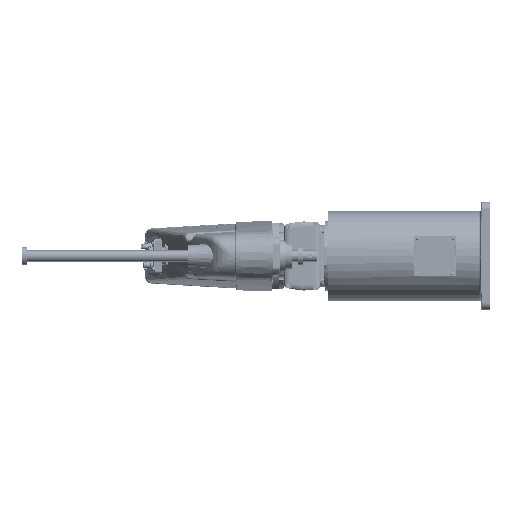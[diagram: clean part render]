
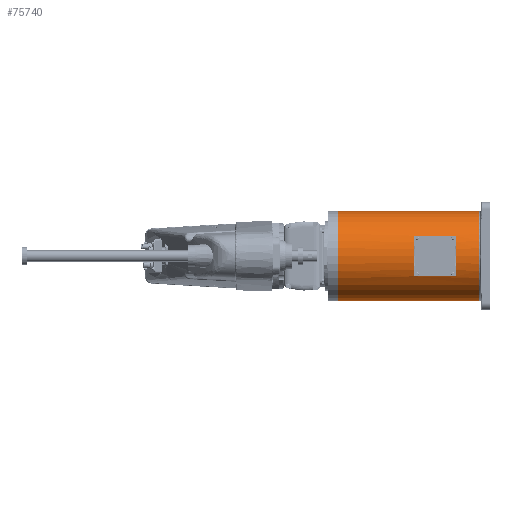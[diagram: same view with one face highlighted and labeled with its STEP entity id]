
A CAD part, left-side view. The second image highlights one B-rep face of the part: STEP entity #75740.
In plain terms, the highlighted cylindrical face has radius 100 mm (diameter 200 mm), a partial arc.
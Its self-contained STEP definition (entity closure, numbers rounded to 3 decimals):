
#4664 = EDGE_CURVE ( 'NONE', #220533, #221621, #193786, .T. ) ;
#4794 = EDGE_CURVE ( 'NONE', #221434, #220404, #193957, .T. ) ;
#4808 = EDGE_CURVE ( 'NONE', #221621, #221434, #193975, .T. ) ;
#4844 = EDGE_CURVE ( 'NONE', #70728, #70568, #194050, .T. ) ;
#5009 = EDGE_CURVE ( 'NONE', #70589, #70693, #194409, .T. ) ;
#5409 = EDGE_CURVE ( 'NONE', #220533, #220404, #196245, .T. ) ;
#5480 = AXIS2_PLACEMENT_3D ( 'NONE', #108904, #108908, #108911 ) ;
#5503 = AXIS2_PLACEMENT_3D ( 'NONE', #110199, #110202, #110206 ) ;
#5512 = AXIS2_PLACEMENT_3D ( 'NONE', #86736, #86740, #86744 ) ;
#5535 = AXIS2_PLACEMENT_3D ( 'NONE', #87304, #87306, #87308 ) ;
#16268 = CARTESIAN_POINT ( 'NONE',  ( 0., -153.2, 100. ) ) ;
#16282 = CARTESIAN_POINT ( 'NONE',  ( 0., 161.8, 100. ) ) ;
#16352 = CARTESIAN_POINT ( 'NONE',  ( 0., 161.8, -100. ) ) ;
#16376 = CARTESIAN_POINT ( 'NONE',  ( 0., -153.2, -100. ) ) ;
#20817 = CARTESIAN_POINT ( 'NONE',  ( -89., -8.5, -45.596 ) ) ;
#21526 = CARTESIAN_POINT ( 'NONE',  ( 0., 177.8, -100. ) ) ;
#21527 = DIRECTION ( 'NONE',  ( 0., -1., 0. ) ) ;
#21862 = CARTESIAN_POINT ( 'NONE',  ( 0., 177.8, 100. ) ) ;
#21864 = DIRECTION ( 'NONE',  ( 0., -1., 0. ) ) ;
#43657 = CARTESIAN_POINT ( 'NONE',  ( -89., 0., 45.596 ) ) ;
#43660 = DIRECTION ( 'NONE',  ( 0., 1., 0. ) ) ;
#70568 = VERTEX_POINT ( 'NONE', #16268 ) ;
#70589 = VERTEX_POINT ( 'NONE', #16282 ) ;
#70693 = VERTEX_POINT ( 'NONE', #16352 ) ;
#70728 = VERTEX_POINT ( 'NONE', #16376 ) ;
#74260 = EDGE_CURVE ( 'NONE', #70693, #70728, #138830, .T. ) ;
#74346 = EDGE_CURVE ( 'NONE', #70589, #70568, #138935, .T. ) ;
#75740 = ADVANCED_FACE ( 'NONE', ( #214436, #214438 ), #214439, .T. ) ;
#86736 = CARTESIAN_POINT ( 'NONE',  ( 0., -153.2, 0. ) ) ;
#86740 = DIRECTION ( 'NONE',  ( 0., 1., 0. ) ) ;
#86744 = DIRECTION ( 'NONE',  ( 0., 0., -1. ) ) ;
#87304 = CARTESIAN_POINT ( 'NONE',  ( 0., 161.8, 0. ) ) ;
#87306 = DIRECTION ( 'NONE',  ( 0., -1., 0. ) ) ;
#87308 = DIRECTION ( 'NONE',  ( 0., 0., -1. ) ) ;
#108904 = CARTESIAN_POINT ( 'NONE',  ( 0., -101.5, 0. ) ) ;
#108908 = DIRECTION ( 'NONE',  ( 0., -1., 0. ) ) ;
#108911 = DIRECTION ( 'NONE',  ( 0., 0., -1. ) ) ;
#110199 = CARTESIAN_POINT ( 'NONE',  ( 0., -8.5, 0. ) ) ;
#110202 = DIRECTION ( 'NONE',  ( 0., 1., 0. ) ) ;
#110206 = DIRECTION ( 'NONE',  ( 0., 0., -1. ) ) ;
#110344 = CARTESIAN_POINT ( 'NONE',  ( -89., 177.8, -45.596 ) ) ;
#110347 = DIRECTION ( 'NONE',  ( 0., 1., 0. ) ) ;
#138830 = LINE ( 'NONE', #21526, #138832 ) ;
#138832 = VECTOR ( 'NONE', #21527, 1000. ) ;
#138935 = LINE ( 'NONE', #21862, #138936 ) ;
#138936 = VECTOR ( 'NONE', #21864, 1000. ) ;
#187768 = ORIENTED_EDGE ( 'NONE', *, *, #74346, .F. ) ;
#187769 = ORIENTED_EDGE ( 'NONE', *, *, #5009, .T. ) ;
#187770 = ORIENTED_EDGE ( 'NONE', *, *, #74260, .T. ) ;
#187771 = ORIENTED_EDGE ( 'NONE', *, *, #4844, .T. ) ;
#187772 = ORIENTED_EDGE ( 'NONE', *, *, #5409, .F. ) ;
#187773 = ORIENTED_EDGE ( 'NONE', *, *, #4664, .T. ) ;
#187774 = ORIENTED_EDGE ( 'NONE', *, *, #4808, .T. ) ;
#187775 = ORIENTED_EDGE ( 'NONE', *, *, #4794, .T. ) ;
#193786 = CIRCLE ( 'NONE', #5480, 100. ) ;
#193957 = CIRCLE ( 'NONE', #5503, 100. ) ;
#193975 = LINE ( 'NONE', #110344, #193977 ) ;
#193977 = VECTOR ( 'NONE', #110347, 1000. ) ;
#194050 = CIRCLE ( 'NONE', #5512, 100. ) ;
#194409 = CIRCLE ( 'NONE', #5535, 100. ) ;
#196245 = LINE ( 'NONE', #43657, #196252 ) ;
#196252 = VECTOR ( 'NONE', #43660, 1000. ) ;
#208387 = CARTESIAN_POINT ( 'NONE',  ( -89., -8.5, 45.596 ) ) ;
#208893 = CARTESIAN_POINT ( 'NONE',  ( -89., -101.5, 45.596 ) ) ;
#214436 = FACE_OUTER_BOUND ( 'NONE', #231636, .T. ) ;
#214438 = FACE_BOUND ( 'NONE', #231634, .T. ) ;
#214439 = CYLINDRICAL_SURFACE ( 'NONE', #218967, 100. ) ;
#216128 = CARTESIAN_POINT ( 'NONE',  ( 0., 177.8, 0. ) ) ;
#216130 = DIRECTION ( 'NONE',  ( 0., -1., 0. ) ) ;
#216132 = DIRECTION ( 'NONE',  ( 0., 0., -1. ) ) ;
#218967 = AXIS2_PLACEMENT_3D ( 'NONE', #216128, #216130, #216132 ) ;
#220404 = VERTEX_POINT ( 'NONE', #208387 ) ;
#220533 = VERTEX_POINT ( 'NONE', #208893 ) ;
#221434 = VERTEX_POINT ( 'NONE', #20817 ) ;
#221621 = VERTEX_POINT ( 'NONE', #226202 ) ;
#226202 = CARTESIAN_POINT ( 'NONE',  ( -89., -101.5, -45.596 ) ) ;
#231634 = EDGE_LOOP ( 'NONE', ( #187772, #187773, #187774, #187775 ) ) ;
#231636 = EDGE_LOOP ( 'NONE', ( #187768, #187769, #187770, #187771 ) ) ;
